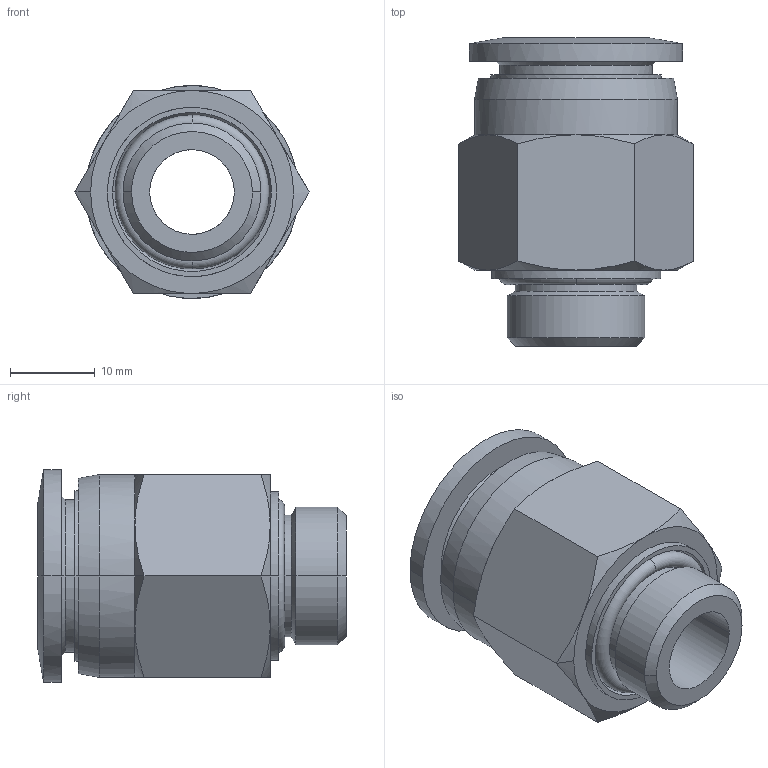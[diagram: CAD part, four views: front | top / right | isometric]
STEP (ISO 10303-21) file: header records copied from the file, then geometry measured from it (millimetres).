
FILE_DESCRIPTION (( 'STEP AP203' ), '1' );
FILE_NAME ('FH16-03.STEP', '2020-05-06T14:37:39', ( '' ), ( '' ), 'SwSTEP 2.0', 'SolidWorks 2019', '' );
FILE_SCHEMA (( 'CONFIG_CONTROL_DESIGN' ));
Length unit declared in the file: millimetre
Products named in the file (1): FH16-03
Bounding box: 27.71 x 36.5 x 25.19 mm (x, y, z)
Surface area: 5869.1 mm2 (no closed solid volume)
Topology: 0 solids, 4 shells, 67 faces, 151 edges, 93 vertices
Faces by surface type: cone 26, cylinder 20, plane 15, torus 6
Entity records: 3320 total; most frequent: CARTESIAN_POINT 1979, ORIENTED_EDGE 286, DIRECTION 182, EDGE_CURVE 151, B_SPLINE_CURVE_WITH_KNOTS 111, VERTEX_POINT 93, EDGE_LOOP 76, AXIS2_PLACEMENT_3D 74
